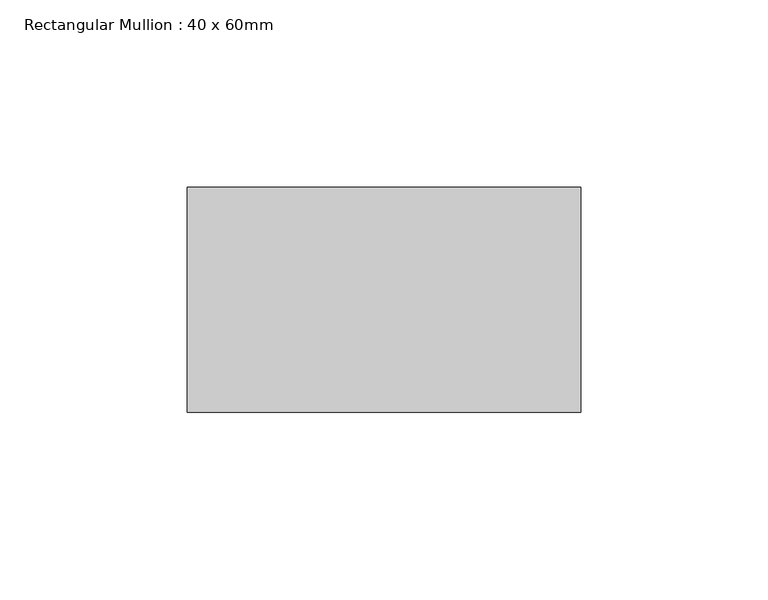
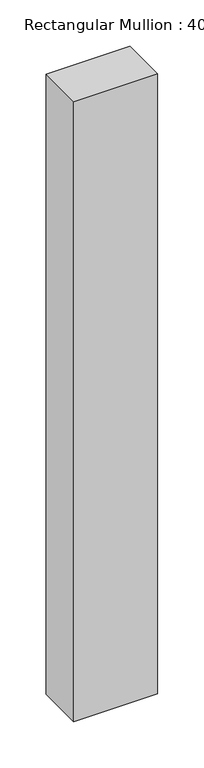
"""IFC4 building model written with IfcOpenShell, lengths in millimetres: member geometry, Rectangular Mullion : 40 x 60mm."""

import ifcopenshell
import ifcopenshell.guid

model = None  # the IFC model being written
_history = None  # IfcOwnerHistory: only IFC2X3 demands one
_inside = {}  # id of a spatial element -> (the spatial element, [elements in it])
_under = {}  # id of a project, library or spatial element -> (it, [spatial elements below it])
_declared = {}  # id of a project -> (the project, [libraries it declares])
_typed = {}  # id of a type object -> (the type object, [elements of that type])
_made_of = {}  # id of a material, layer set ... -> (it, [elements and type objects made of it])


def new_model(schema):
    """Start an empty IFC model of exactly this schema.

    Asked for "IFC4X3", IfcOpenShell would pick the latest addendum, in which some entities
    have other attributes; the version numbers below select the first issue.
    IFC2X3 requires an IfcOwnerHistory on every rooted entity: one is made here for all.
    """
    global model, _history
    if schema == "IFC4X3":
        model = ifcopenshell.file(schema_version=(4, 3, 0, 0))
    else:
        model = ifcopenshell.file(schema=schema)
    _inside.clear()
    _under.clear()
    _declared.clear()
    _typed.clear()
    _made_of.clear()
    _history = None
    if model.schema == "IFC2X3":
        org = make("IfcOrganization", Name="unknown")
        user = make(
            "IfcPersonAndOrganization",
            ThePerson=make("IfcPerson", FamilyName="unknown"),
            TheOrganization=org,
        )
        app = make(
            "IfcApplication",
            ApplicationDeveloper=org,
            Version="unknown",
            ApplicationFullName="unknown",
            ApplicationIdentifier="unknown",
        )
        _history = make(
            "IfcOwnerHistory",
            OwningUser=user,
            OwningApplication=app,
            ChangeAction="ADDED",
            CreationDate=0,
        )
    return model


def make(cls, **values):
    """One entity of the class cls with the attributes given. An attribute that is None is left unset."""
    return model.create_entity(
        cls, **{name: value for name, value in values.items() if value is not None}
    )


def rooted(cls, **values):
    """An entity with a GlobalId (a new one), such as an element, a storey or a relation."""
    return make(cls, GlobalId=ifcopenshell.guid.new(), OwnerHistory=_history, **values)


def si_unit(unit_type, name, prefix=None):
    """IfcSIUnit, for example si_unit("LENGTHUNIT", "METRE", prefix="MILLI")."""
    return make("IfcSIUnit", UnitType=unit_type, Prefix=prefix, Name=name)


def assignment(units):
    """IfcUnitAssignment: the units of a project."""
    return None if units is None else make("IfcUnitAssignment", Units=units)


def point(xyz):
    """IfcCartesianPoint."""
    return None if xyz is None else make("IfcCartesianPoint", Coordinates=xyz)


def direction(xyz):
    """IfcDirection."""
    return None if xyz is None else make("IfcDirection", DirectionRatios=xyz)


def frame(location, z_axis=None, x_axis=None):
    """IfcAxis2Placement3D, a coordinate frame: its origin and axes. An axis left out is left unset."""
    return make(
        "IfcAxis2Placement3D",
        Location=point(location),
        Axis=direction(z_axis),
        RefDirection=direction(x_axis),
    )


def origin():
    """The frame at (0, 0, 0) with its axes left unset."""
    return frame((0.0, 0.0, 0.0))


def place(relative_to, where):
    """IfcLocalPlacement: puts the frame where relative to a parent placement (None: the world)."""
    return make(
        "IfcLocalPlacement", PlacementRelTo=relative_to, RelativePlacement=where
    )


def context(
    kind, dimensions, precision=None, world=None, true_north=None, identifier=None
):
    """IfcGeometricRepresentationContext, for example the 3D "Model" context."""
    return make(
        "IfcGeometricRepresentationContext",
        ContextIdentifier=identifier,
        ContextType=kind,
        CoordinateSpaceDimension=dimensions,
        Precision=precision,
        WorldCoordinateSystem=world,
        TrueNorth=true_north,
    )


def project(units=None, contexts=None):
    """IfcProject with its units and contexts."""
    return rooted(
        "IfcProject",
        Name="project",
        RepresentationContexts=contexts,
        UnitsInContext=assignment(units),
    )


def spatial(cls, under=None, at=None, **own):
    """A site, building, storey or space (cls), placed at a placement, below another one or the project."""
    s = rooted(cls, ObjectPlacement=at, **own)
    if under is not None:
        _under.setdefault(under.id(), (under, []))[1].append(s)
    return s


def polyline(points):
    """IfcPolyline through the points."""
    return make("IfcPolyline", Points=[point(p) for p in points])


def outline(outer, holes=None, kind="AREA"):
    """IfcArbitraryClosedProfileDef: a profile drawn as a closed curve; with holes, ...WithVoids."""
    if holes is None:
        return make("IfcArbitraryClosedProfileDef", ProfileType=kind, OuterCurve=outer)
    return make(
        "IfcArbitraryProfileDefWithVoids",
        ProfileType=kind,
        OuterCurve=outer,
        InnerCurves=holes,
    )


def extrude(swept, where, along, depth):
    """IfcExtrudedAreaSolid: the profile swept, set in the frame where, extruded along a direction by depth."""
    return make(
        "IfcExtrudedAreaSolid",
        SweptArea=swept,
        Position=where,
        ExtrudedDirection=direction(along),
        Depth=depth,
    )


def shape(context_of_items, identifier, shape_type, items):
    """IfcShapeRepresentation: the items that make up one representation, for example the "Body"."""
    return make(
        "IfcShapeRepresentation",
        ContextOfItems=context_of_items,
        RepresentationIdentifier=identifier,
        RepresentationType=shape_type,
        Items=items,
    )


def source(mapping_origin, context_of_items, identifier, shape_type, items):
    """IfcRepresentationMap: a shape defined once, which mapped items show again and again."""
    return make(
        "IfcRepresentationMap",
        MappingOrigin=mapping_origin,
        MappedRepresentation=shape(context_of_items, identifier, shape_type, items),
    )


def transform(
    local_origin,
    x_axis=None,
    y_axis=None,
    z_axis=None,
    scale=None,
    scale2=None,
    scale3=None,
    uniform=True,
):
    """IfcCartesianTransformationOperator3D, or its non-uniform kind. x_axis, y_axis, z_axis: its Axis1, 2, 3."""
    if uniform:
        return make(
            "IfcCartesianTransformationOperator3D",
            Axis1=direction(x_axis),
            Axis2=direction(y_axis),
            LocalOrigin=point(local_origin),
            Scale=scale,
            Axis3=direction(z_axis),
        )
    return make(
        "IfcCartesianTransformationOperator3DnonUniform",
        Axis1=direction(x_axis),
        Axis2=direction(y_axis),
        LocalOrigin=point(local_origin),
        Scale=scale,
        Axis3=direction(z_axis),
        Scale2=scale2,
        Scale3=scale3,
    )


def mapped(mapping_source, mapping_target):
    """IfcMappedItem: shows the shape of a source again, moved by a transform."""
    return make(
        "IfcMappedItem", MappingSource=mapping_source, MappingTarget=mapping_target
    )


def made_of(thing, what):
    """Note that an element or type object is made of a material, layer set ...; save() writes the relation."""
    if what is not None:
        _made_of.setdefault(what.id(), (what, []))[1].append(thing)
    return thing


def element(
    cls,
    number,
    at=None,
    inside=None,
    cuts=None,
    type_object=None,
    material=None,
    context=None,
    identifier="Body",
    shape_type=None,
    held_by="IfcProductDefinitionShape",
    body=None,
    shapes=None,
    **own,
):
    """One element of the class cls, such as IfcWall. Its Tag is "e" and its number.

    at: its placement. inside: the storey or other place that contains it. cuts: it is an
    opening in that element (IfcRelVoidsElement). A single representation is given by context,
    identifier, shape_type and body (its items); several are given by shapes. held_by: the class
    of the entity that holds the representations. save() writes the other relations.
    """
    e = rooted(cls, Tag="e%d" % number, ObjectPlacement=at, **own)
    if body is not None:
        shapes = [shape(context, identifier, shape_type, body)]
    if shapes is not None:
        e.Representation = make(held_by, Representations=shapes)
    if inside is not None:
        _inside.setdefault(inside.id(), (inside, []))[1].append(e)
    if cuts is not None:
        rooted(
            "IfcRelVoidsElement", RelatingBuildingElement=cuts, RelatedOpeningElement=e
        )
    if type_object is not None:
        _typed.setdefault(type_object.id(), (type_object, []))[1].append(e)
    return made_of(e, material)


def aggregate(whole, parts):
    """IfcRelAggregates: a whole, such as a stair, and the parts it consists of."""
    return rooted("IfcRelAggregates", RelatingObject=whole, RelatedObjects=parts)


def save(model, path):
    """Write the relations noted so far, then the file.

    IfcRelAggregates (storeys below a building ...), IfcRelContainedInSpatialStructure (elements
    in a storey), IfcRelDefinesByType, IfcRelAssociatesMaterial and IfcRelDeclares: one each for
    every whole, place, type object, material and project.
    """
    for whole, parts in _under.values():
        aggregate(whole, parts)
    for where, things in _inside.values():
        rooted(
            "IfcRelContainedInSpatialStructure",
            RelatedElements=things,
            RelatingStructure=where,
        )
    for kind, things in _typed.values():
        rooted("IfcRelDefinesByType", RelatedObjects=things, RelatingType=kind)
    for what, things in _made_of.values():
        rooted("IfcRelAssociatesMaterial", RelatedObjects=things, RelatingMaterial=what)
    for by, libraries in _declared.values():
        rooted("IfcRelDeclares", RelatingContext=by, RelatedDefinitions=libraries)
    model.write(path)


def rectangular_mullion_40_x_60mm_4f2acf10(model_context):
    return source(origin(), model_context, "Body", "SweptSolid", [
        extrude(outline(polyline([(0.0, -10.0), (0.0, -70.0), (-105.0, -70.0), (-105.0, -10.0), (0.0, -10.0)])), frame((0.0, 0.0, -819.3804618), z_axis=(0.0, 0.0, 1.0), x_axis=(1.0, 0.0, 0.0)), (0.0, 0.0, 1.0), 819.3804618),
    ])


if __name__ == "__main__":
    model = new_model("IFC4")
    model_context = context("Model", 3, world=origin())
    ifc_project = project(units=[si_unit("LENGTHUNIT", "METRE", prefix="MILLI")], contexts=[model_context])
    site = spatial("IfcSite", under=ifc_project)
    building = spatial("IfcBuilding", under=site)
    placement = place(None, origin())
    rectangular_mullion_40_x_60mm_shape = rectangular_mullion_40_x_60mm_4f2acf10(model_context)
    element("IfcMember", 1, ObjectType="Rectangular Mullion : 40 x 60mm", at=placement, inside=building, context=model_context, shape_type="MappedRepresentation", body=[
        mapped(rectangular_mullion_40_x_60mm_shape, transform((0.0, 0.0, 0.0), x_axis=(1.0, 0.0, 0.0), y_axis=(0.0, 1.0, 0.0), z_axis=(0.0, 0.0, 1.0))),
    ])
    save(model, "model.ifc")
